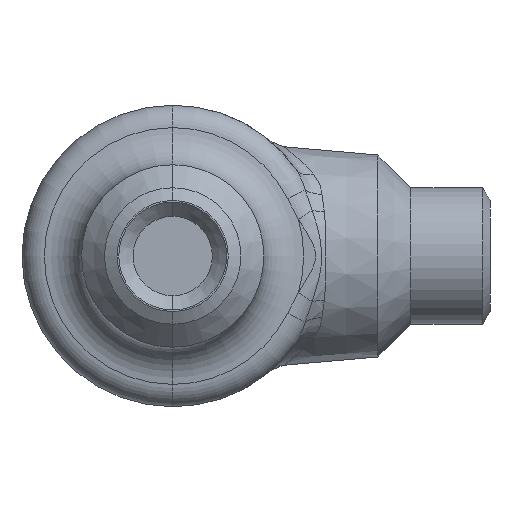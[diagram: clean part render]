
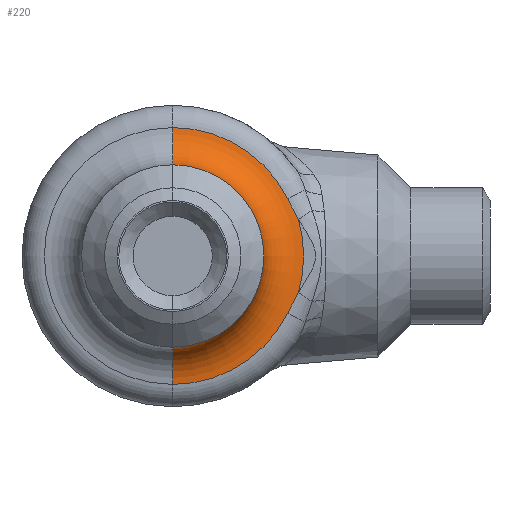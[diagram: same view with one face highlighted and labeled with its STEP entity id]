
A CAD part, front view. The second image highlights one B-rep face of the part: STEP entity #220.
In plain terms, the highlighted toroidal (fillet/blend) face has major radius 16.5 mm and minor radius 5 mm.
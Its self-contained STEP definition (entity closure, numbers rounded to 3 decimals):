
#167 = EDGE_CURVE ( 'NONE', #20110, #19901, #4280, .T. ) ;
#220 = ADVANCED_FACE ( 'NONE', ( #4544 ), #4545, .F. ) ;
#16750 = B_SPLINE_CURVE_WITH_KNOTS ( 'NONE', 3,
 ( #16751, #16752, #16753, #16754 ),
 .UNSPECIFIED., .F., .F.,
 ( 4, 4 ),
 ( 0.013, 0.016 ),
 .UNSPECIFIED. ) ;
#16751 = CARTESIAN_POINT ( 'NONE',  ( 15.848, -52., 4.594 ) ) ;
#16752 = CARTESIAN_POINT ( 'NONE',  ( 15.397, -52., 5.474 ) ) ;
#16753 = CARTESIAN_POINT ( 'NONE',  ( 14.925, -52.01, 6.344 ) ) ;
#16754 = CARTESIAN_POINT ( 'NONE',  ( 14.484, -52.01, 7.229 ) ) ;
#16838 = EDGE_CURVE ( 'NONE', #20110, #5472, #16750, .T. ) ;
#17129 = CARTESIAN_POINT ( 'NONE',  ( 0., -57., -11.5 ) ) ;
#17243 = VERTEX_POINT ( 'NONE', #17129 ) ;
#869 = EDGE_CURVE ( 'NONE', #17243, #11653, #5335, .T. ) ;
#2640 = EDGE_CURVE ( 'NONE', #14170, #17243, #8306, .T. ) ;
#19608 = EDGE_CURVE ( 'NONE', #14170, #6722, #11416, .T. ) ;
#19698 = ORIENTED_EDGE ( 'NONE', *, *, #19608, .T. ) ;
#19846 = ORIENTED_EDGE ( 'NONE', *, *, #869, .F. ) ;
#3500 = ORIENTED_EDGE ( 'NONE', *, *, #10724, .T. ) ;
#19901 = VERTEX_POINT ( 'NONE', #12363 ) ;
#20110 = VERTEX_POINT ( 'NONE', #12578 ) ;
#4160 = EDGE_CURVE ( 'NONE', #6722, #19901, #11457, .T. ) ;
#4249 = ORIENTED_EDGE ( 'NONE', *, *, #4160, .T. ) ;
#4280 = CIRCLE ( 'NONE', #4281, 16.5 ) ;
#4281 = AXIS2_PLACEMENT_3D ( 'NONE', #4282, #4283, #4284 ) ;
#4282 = CARTESIAN_POINT ( 'NONE',  ( 0., -52., 0. ) ) ;
#4283 = DIRECTION ( 'NONE',  ( 0., 1., 0. ) ) ;
#4284 = DIRECTION ( 'NONE',  ( 0., 0., 1. ) ) ;
#4544 = FACE_OUTER_BOUND ( 'NONE', #5033, .T. ) ;
#4545 = TOROIDAL_SURFACE ( 'NONE', #4546, 16.5, 5. ) ;
#4546 = AXIS2_PLACEMENT_3D ( 'NONE', #4547, #4549, #4550 ) ;
#4547 = CARTESIAN_POINT ( 'NONE',  ( 0., -57., 0. ) ) ;
#4549 = DIRECTION ( 'NONE',  ( 0., 1., 0. ) ) ;
#4550 = DIRECTION ( 'NONE',  ( 0., 0., 1. ) ) ;
#5033 = EDGE_LOOP ( 'NONE', ( #7268, #19698, #4249, #14171, #11029, #5308, #3500, #19846 ) ) ;
#5308 = ORIENTED_EDGE ( 'NONE', *, *, #5582, .T. ) ;
#5335 = CIRCLE ( 'NONE', #5336, 11.5 ) ;
#5336 = AXIS2_PLACEMENT_3D ( 'NONE', #5337, #5338, #5339 ) ;
#5337 = CARTESIAN_POINT ( 'NONE',  ( 0., -57., 0. ) ) ;
#5338 = DIRECTION ( 'NONE',  ( 0., -1., 0. ) ) ;
#5339 = DIRECTION ( 'NONE',  ( 0., 0., 1. ) ) ;
#5472 = VERTEX_POINT ( 'NONE', #14643 ) ;
#5582 = EDGE_CURVE ( 'NONE', #5472, #11882, #14687, .T. ) ;
#6722 = VERTEX_POINT ( 'NONE', #16191 ) ;
#7268 = ORIENTED_EDGE ( 'NONE', *, *, #2640, .F. ) ;
#7290 = CIRCLE ( 'NONE', #7291, 5. ) ;
#7291 = AXIS2_PLACEMENT_3D ( 'NONE', #7292, #7293, #7294 ) ;
#7292 = CARTESIAN_POINT ( 'NONE',  ( 0., -57., 16.5 ) ) ;
#7293 = DIRECTION ( 'NONE',  ( -1., 0., 0. ) ) ;
#7294 = DIRECTION ( 'NONE',  ( 0., 0., 1. ) ) ;
#8048 = CARTESIAN_POINT ( 'NONE',  ( 0., -57., 11.5 ) ) ;
#8181 = CARTESIAN_POINT ( 'NONE',  ( 0., -52.01, 16.187 ) ) ;
#8306 = CIRCLE ( 'NONE', #8307, 5. ) ;
#8307 = AXIS2_PLACEMENT_3D ( 'NONE', #8308, #8309, #8310 ) ;
#8308 = CARTESIAN_POINT ( 'NONE',  ( 0., -57., -16.5 ) ) ;
#8309 = DIRECTION ( 'NONE',  ( 1., 0., 0. ) ) ;
#8310 = DIRECTION ( 'NONE',  ( 0., 0., -1. ) ) ;
#10724 = EDGE_CURVE ( 'NONE', #11882, #11653, #7290, .T. ) ;
#11029 = ORIENTED_EDGE ( 'NONE', *, *, #16838, .T. ) ;
#11416 = CIRCLE ( 'NONE', #11417, 16.188 ) ;
#11417 = AXIS2_PLACEMENT_3D ( 'NONE', #11418, #11419, #11420 ) ;
#11418 = CARTESIAN_POINT ( 'NONE',  ( 0., -52.01, 0. ) ) ;
#11419 = DIRECTION ( 'NONE',  ( 0., -1., 0. ) ) ;
#11420 = DIRECTION ( 'NONE',  ( 0., 0., -1. ) ) ;
#11457 = B_SPLINE_CURVE_WITH_KNOTS ( 'NONE', 3,
 ( #11458, #11459, #11460, #11461 ),
 .UNSPECIFIED., .F., .F.,
 ( 4, 4 ),
 ( 0., 0.003 ),
 .UNSPECIFIED. ) ;
#11458 = CARTESIAN_POINT ( 'NONE',  ( 14.484, -52.01, -7.229 ) ) ;
#11459 = CARTESIAN_POINT ( 'NONE',  ( 14.925, -52.01, -6.344 ) ) ;
#11460 = CARTESIAN_POINT ( 'NONE',  ( 15.397, -52., -5.474 ) ) ;
#11461 = CARTESIAN_POINT ( 'NONE',  ( 15.848, -52., -4.594 ) ) ;
#11653 = VERTEX_POINT ( 'NONE', #8048 ) ;
#11882 = VERTEX_POINT ( 'NONE', #8181 ) ;
#12363 = CARTESIAN_POINT ( 'NONE',  ( 15.848, -52., -4.594 ) ) ;
#12578 = CARTESIAN_POINT ( 'NONE',  ( 15.848, -52., 4.594 ) ) ;
#13350 = CARTESIAN_POINT ( 'NONE',  ( 0., -52.01, -16.187 ) ) ;
#14170 = VERTEX_POINT ( 'NONE', #13350 ) ;
#14171 = ORIENTED_EDGE ( 'NONE', *, *, #167, .F. ) ;
#14643 = CARTESIAN_POINT ( 'NONE',  ( 14.484, -52.01, 7.229 ) ) ;
#14687 = CIRCLE ( 'NONE', #14688, 16.188 ) ;
#14688 = AXIS2_PLACEMENT_3D ( 'NONE', #14689, #14690, #14691 ) ;
#14689 = CARTESIAN_POINT ( 'NONE',  ( 0., -52.01, 0. ) ) ;
#14690 = DIRECTION ( 'NONE',  ( 0., -1., 0. ) ) ;
#14691 = DIRECTION ( 'NONE',  ( 0., 0., -1. ) ) ;
#16191 = CARTESIAN_POINT ( 'NONE',  ( 14.484, -52.01, -7.229 ) ) ;
